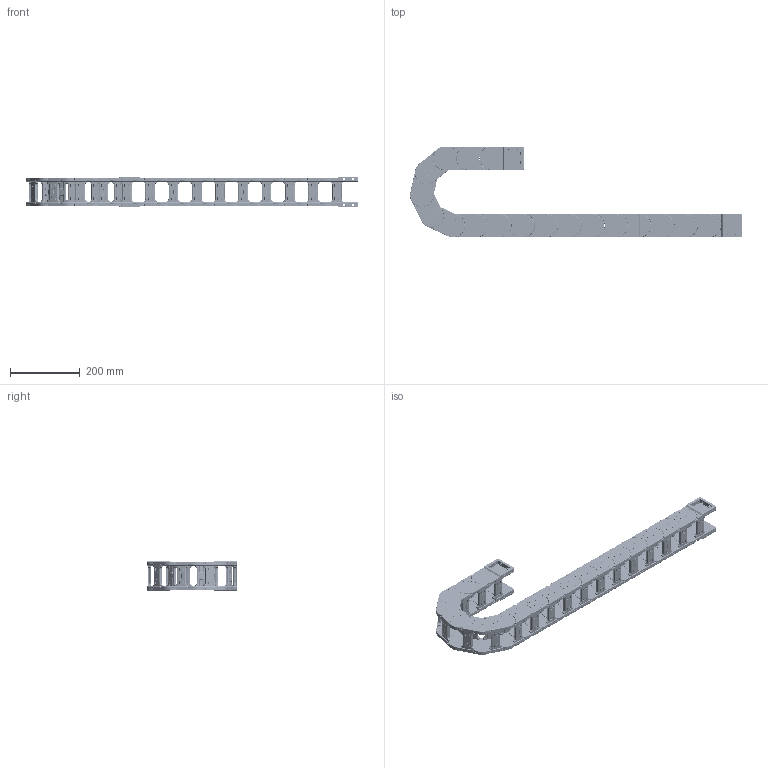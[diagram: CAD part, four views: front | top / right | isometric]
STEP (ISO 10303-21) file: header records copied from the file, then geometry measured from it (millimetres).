
FILE_DESCRIPTION (( 'STEP AP214' ), '1' );
FILE_NAME ('J45Q.1.60S-3D賦凳芞.STEP', '2019-01-10T00:08:54', ( 'Sky123.Org' ), ( 'Sky123.Org' ), 'SwSTEP 2.0', 'SolidWorks 2017', '' );
FILE_SCHEMA (( 'AUTOMOTIVE_DESIGN' ));
Length unit declared in the file: millimetre
Products named in the file (10): 5-N45X75-源諉俋; 45-N源諉芛俋; 5-N45X75-源諉囀; 45-臏簽1; 45-N源諉芛囀; 5-N45X100-1; J45.1結え; 45-崝Ч翋极2; 45-崝Ч翋极1-R250; J45Q.1.60S-3D賦凳芞
Assembly tree (55 placements, depth 3):
  J45Q.1.60S-3D賦凳芞
    5-N45X100-1  x17
      45-崝Ч翋极1-R250
      45-崝Ч翋极2
      J45.1結え
    5-N45X75-源諉囀
      45-N源諉芛囀  x2
      J45.1結え  x2
      45-臏簽1  x12
    5-N45X75-源諉俋
      45-N源諉芛俋  x2
      J45.1結え  x2
      45-臏簽1  x12
Bounding box: 954.91 x 261 x 89 mm (x, y, z)
Volume: 2334939.2 mm3; surface area: 1072132.6 mm2
Topology: 100 solids, 100 shells, 20080 faces, 51658 edges, 31520 vertices
Faces by surface type: plane 7348, cylinder 6440, bspline 3788, torus 1508, sphere 768, cone 228
Entity records: 33152 total; most frequent: CARTESIAN_POINT 10875, ORIENTED_EDGE 4608, DIRECTION 4494, EDGE_CURVE 2304, AXIS2_PLACEMENT_3D 1615, VERTEX_POINT 1438, LINE 1264, VECTOR 1264
